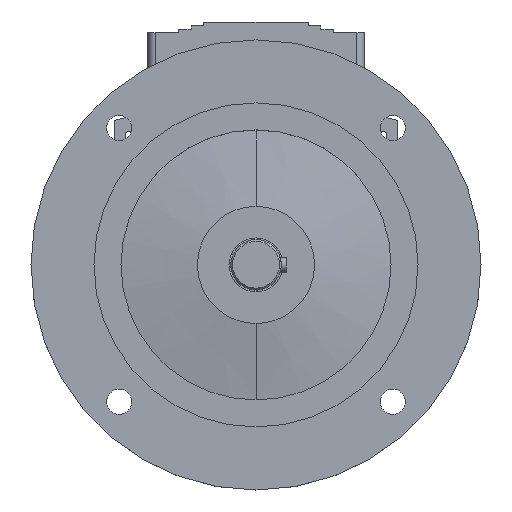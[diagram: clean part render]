
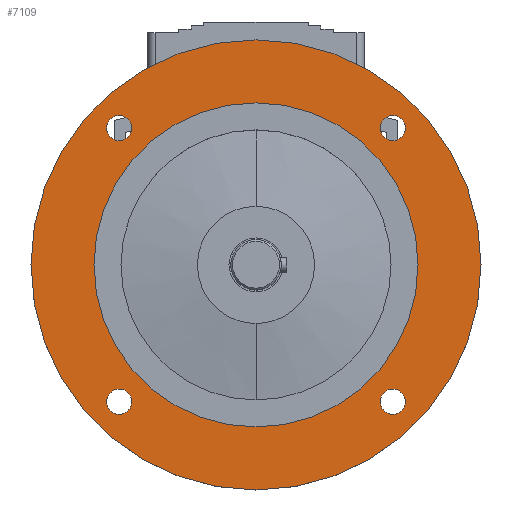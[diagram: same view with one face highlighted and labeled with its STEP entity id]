
A CAD part, top view. The second image highlights one B-rep face of the part: STEP entity #7109.
In plain terms, the highlighted planar face has unit normal (0, 0, 1).
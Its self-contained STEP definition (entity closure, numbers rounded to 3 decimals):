
#1912=CARTESIAN_POINT('',(-76.014,76.014,38.));
#1913=DIRECTION('',(0.,0.,-1.));
#1914=DIRECTION('',(-1.,0.,0.));
#1915=AXIS2_PLACEMENT_3D('',#1912,#1913,#1914);
#1917=CARTESIAN_POINT('',(-76.014,76.014,38.));
#1918=DIRECTION('',(0.,0.,-1.));
#1919=DIRECTION('',(1.,0.,0.));
#1920=AXIS2_PLACEMENT_3D('',#1917,#1918,#1919);
#1922=CARTESIAN_POINT('',(-76.014,-76.014,38.));
#1923=DIRECTION('',(0.,0.,-1.));
#1924=DIRECTION('',(-1.,0.,0.));
#1925=AXIS2_PLACEMENT_3D('',#1922,#1923,#1924);
#1927=CARTESIAN_POINT('',(-76.014,-76.014,38.));
#1928=DIRECTION('',(0.,0.,-1.));
#1929=DIRECTION('',(1.,0.,0.));
#1930=AXIS2_PLACEMENT_3D('',#1927,#1928,#1929);
#1932=CARTESIAN_POINT('',(76.014,-76.014,38.));
#1933=DIRECTION('',(0.,0.,-1.));
#1934=DIRECTION('',(-1.,0.,0.));
#1935=AXIS2_PLACEMENT_3D('',#1932,#1933,#1934);
#1937=CARTESIAN_POINT('',(76.014,-76.014,38.));
#1938=DIRECTION('',(0.,0.,-1.));
#1939=DIRECTION('',(1.,0.,0.));
#1940=AXIS2_PLACEMENT_3D('',#1937,#1938,#1939);
#1942=CARTESIAN_POINT('',(0.,0.,38.));
#1943=DIRECTION('',(0.,0.,1.));
#1944=DIRECTION('',(0.,1.,0.));
#1945=AXIS2_PLACEMENT_3D('',#1942,#1943,#1944);
#1947=CARTESIAN_POINT('',(0.,0.,38.));
#1948=DIRECTION('',(0.,0.,-1.));
#1949=DIRECTION('',(0.,1.,0.));
#1950=AXIS2_PLACEMENT_3D('',#1947,#1948,#1949);
#1952=CARTESIAN_POINT('',(76.014,76.014,38.));
#1953=DIRECTION('',(0.,0.,-1.));
#1954=DIRECTION('',(-1.,0.,0.));
#1955=AXIS2_PLACEMENT_3D('',#1952,#1953,#1954);
#1957=CARTESIAN_POINT('',(76.014,76.014,38.));
#1958=DIRECTION('',(0.,0.,-1.));
#1959=DIRECTION('',(1.,0.,0.));
#1960=AXIS2_PLACEMENT_3D('',#1957,#1958,#1959);
#1982=CARTESIAN_POINT('',(0.,0.,38.));
#1983=DIRECTION('',(0.,0.,-1.));
#1984=DIRECTION('',(0.,1.,0.));
#1985=AXIS2_PLACEMENT_3D('',#1982,#1983,#1984);
#1995=CARTESIAN_POINT('',(0.,0.,38.));
#1996=DIRECTION('',(0.,0.,1.));
#1997=DIRECTION('',(0.,1.,0.));
#1998=AXIS2_PLACEMENT_3D('',#1995,#1996,#1997);
#3493=CARTESIAN_POINT('',(0.,125.,38.));
#3495=VERTEX_POINT('',#3493);
#3496=CARTESIAN_POINT('',(0.,90.,38.));
#3498=VERTEX_POINT('',#3496);
#3501=CARTESIAN_POINT('',(0.,-125.,38.));
#3503=VERTEX_POINT('',#3501);
#3504=CARTESIAN_POINT('',(0.,-90.,38.));
#3506=VERTEX_POINT('',#3504);
#3512=CARTESIAN_POINT('',(69.014,76.014,38.));
#3513=CARTESIAN_POINT('',(83.014,76.014,38.));
#3514=VERTEX_POINT('',#3512);
#3515=VERTEX_POINT('',#3513);
#3520=CARTESIAN_POINT('',(69.014,-76.014,38.));
#3521=CARTESIAN_POINT('',(83.014,-76.014,38.));
#3522=VERTEX_POINT('',#3520);
#3523=VERTEX_POINT('',#3521);
#3528=CARTESIAN_POINT('',(-83.014,-76.014,38.));
#3529=CARTESIAN_POINT('',(-69.014,-76.014,38.));
#3530=VERTEX_POINT('',#3528);
#3531=VERTEX_POINT('',#3529);
#3536=CARTESIAN_POINT('',(-83.014,76.014,38.));
#3537=CARTESIAN_POINT('',(-69.014,76.014,38.));
#3538=VERTEX_POINT('',#3536);
#3539=VERTEX_POINT('',#3537);
#7069=CARTESIAN_POINT('',(0.,0.,38.));
#7070=DIRECTION('',(0.,0.,-1.));
#7071=DIRECTION('',(0.,-1.,0.));
#7072=AXIS2_PLACEMENT_3D('',#7069,#7070,#7071);
#7073=PLANE('',#7072);
#7075=ORIENTED_EDGE('',*,*,#7074,.F.);
#7077=ORIENTED_EDGE('',*,*,#7076,.T.);
#7078=EDGE_LOOP('',(#7075,#7077));
#7079=FACE_OUTER_BOUND('',#7078,.F.);
#7080=ORIENTED_EDGE('',*,*,#7059,.F.);
#7082=ORIENTED_EDGE('',*,*,#7081,.F.);
#7083=EDGE_LOOP('',(#7080,#7082));
#7084=FACE_BOUND('',#7083,.F.);
#7086=ORIENTED_EDGE('',*,*,#7085,.F.);
#7088=ORIENTED_EDGE('',*,*,#7087,.F.);
#7089=EDGE_LOOP('',(#7086,#7088));
#7090=FACE_BOUND('',#7089,.F.);
#7092=ORIENTED_EDGE('',*,*,#7091,.F.);
#7094=ORIENTED_EDGE('',*,*,#7093,.F.);
#7095=EDGE_LOOP('',(#7092,#7094));
#7096=FACE_BOUND('',#7095,.F.);
#7098=ORIENTED_EDGE('',*,*,#7097,.F.);
#7100=ORIENTED_EDGE('',*,*,#7099,.T.);
#7101=EDGE_LOOP('',(#7098,#7100));
#7102=FACE_BOUND('',#7101,.F.);
#7104=ORIENTED_EDGE('',*,*,#7103,.F.);
#7106=ORIENTED_EDGE('',*,*,#7105,.F.);
#7107=EDGE_LOOP('',(#7104,#7106));
#7108=FACE_BOUND('',#7107,.F.);
#7109=ADVANCED_FACE('',(#7079,#7084,#7090,#7096,#7102,#7108),#7073,.F.);
#1916=CIRCLE('',#1915,7.);
#1921=CIRCLE('',#1920,7.);
#1926=CIRCLE('',#1925,7.);
#1931=CIRCLE('',#1930,7.);
#1936=CIRCLE('',#1935,7.);
#1941=CIRCLE('',#1940,7.);
#1946=CIRCLE('',#1945,125.);
#1951=CIRCLE('',#1950,125.);
#1956=CIRCLE('',#1955,7.);
#1961=CIRCLE('',#1960,7.);
#1986=CIRCLE('',#1985,90.);
#1999=CIRCLE('',#1998,90.);
#7059=EDGE_CURVE('',#3538,#3539,#1916,.T.);
#7074=EDGE_CURVE('',#3495,#3503,#1946,.T.);
#7076=EDGE_CURVE('',#3495,#3503,#1951,.T.);
#7081=EDGE_CURVE('',#3539,#3538,#1921,.T.);
#7085=EDGE_CURVE('',#3530,#3531,#1926,.T.);
#7087=EDGE_CURVE('',#3531,#3530,#1931,.T.);
#7091=EDGE_CURVE('',#3522,#3523,#1936,.T.);
#7093=EDGE_CURVE('',#3523,#3522,#1941,.T.);
#7097=EDGE_CURVE('',#3498,#3506,#1986,.T.);
#7099=EDGE_CURVE('',#3498,#3506,#1999,.T.);
#7103=EDGE_CURVE('',#3514,#3515,#1956,.T.);
#7105=EDGE_CURVE('',#3515,#3514,#1961,.T.);
